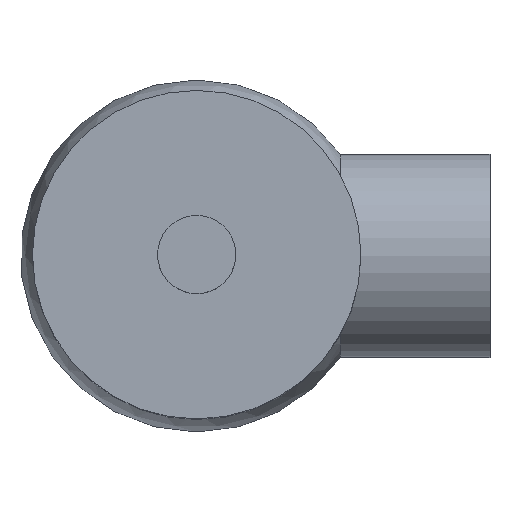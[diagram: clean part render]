
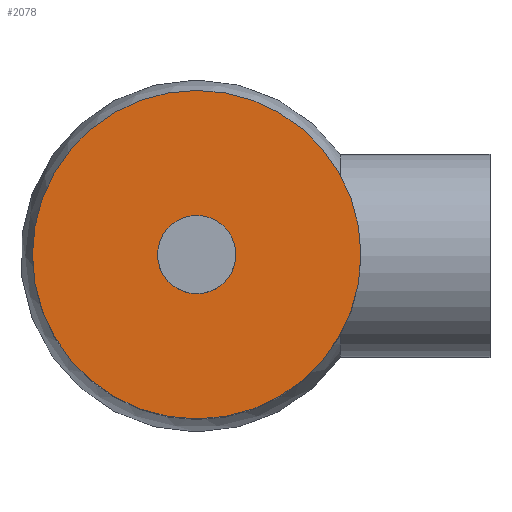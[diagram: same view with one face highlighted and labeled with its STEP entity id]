
A CAD part, top view. The second image highlights one B-rep face of the part: STEP entity #2078.
In plain terms, the highlighted planar face has unit normal (0, 0, 1).
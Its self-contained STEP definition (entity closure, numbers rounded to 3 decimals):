
#1994 = CYLINDRICAL_SURFACE('',#1995,84.);
#1995 = AXIS2_PLACEMENT_3D('',#1996,#1997,#1998);
#1996 = CARTESIAN_POINT('',(0.,0.,213.5));
#1997 = DIRECTION('',(0.,0.,1.));
#1998 = DIRECTION('',(1.,0.,0.));
#2027 = EDGE_CURVE('',#2028,#2028,#2030,.T.);
#2028 = VERTEX_POINT('',#2029);
#2029 = CARTESIAN_POINT('',(84.,0.,384.3));
#2030 = SURFACE_CURVE('',#2031,(#2036,#2043),.PCURVE_S1.);
#2031 = CIRCLE('',#2032,84.);
#2032 = AXIS2_PLACEMENT_3D('',#2033,#2034,#2035);
#2033 = CARTESIAN_POINT('',(0.,0.,384.3));
#2034 = DIRECTION('',(0.,0.,1.));
#2035 = DIRECTION('',(1.,0.,0.));
#2036 = PCURVE('',#1994,#2037);
#2037 = DEFINITIONAL_REPRESENTATION('',(#2038),#2042);
#2038 = LINE('',#2039,#2040);
#2039 = CARTESIAN_POINT('',(0.,170.8));
#2040 = VECTOR('',#2041,1.);
#2041 = DIRECTION('',(1.,0.));
#2042 = ( GEOMETRIC_REPRESENTATION_CONTEXT(2) 
PARAMETRIC_REPRESENTATION_CONTEXT() REPRESENTATION_CONTEXT('2D SPACE',''
  ) );
#2043 = PCURVE('',#2044,#2049);
#2044 = PLANE('',#2045);
#2045 = AXIS2_PLACEMENT_3D('',#2046,#2047,#2048);
#2046 = CARTESIAN_POINT('',(0.,0.,384.3));
#2047 = DIRECTION('',(0.,0.,1.));
#2048 = DIRECTION('',(1.,0.,0.));
#2049 = DEFINITIONAL_REPRESENTATION('',(#2050),#2054);
#2050 = CIRCLE('',#2051,84.);
#2051 = AXIS2_PLACEMENT_2D('',#2052,#2053);
#2052 = CARTESIAN_POINT('',(0.,0.));
#2053 = DIRECTION('',(1.,0.));
#2054 = ( GEOMETRIC_REPRESENTATION_CONTEXT(2) 
PARAMETRIC_REPRESENTATION_CONTEXT() REPRESENTATION_CONTEXT('2D SPACE',''
  ) );
#2078 = ADVANCED_FACE('',(#2079,#2082),#2044,.T.);
#2079 = FACE_BOUND('',#2080,.T.);
#2080 = EDGE_LOOP('',(#2081));
#2081 = ORIENTED_EDGE('',*,*,#2027,.T.);
#2082 = FACE_BOUND('',#2083,.T.);
#2083 = EDGE_LOOP('',(#2084));
#2084 = ORIENTED_EDGE('',*,*,#2085,.F.);
#2085 = EDGE_CURVE('',#2086,#2086,#2088,.T.);
#2086 = VERTEX_POINT('',#2087);
#2087 = CARTESIAN_POINT('',(20.,0.,384.3));
#2088 = SURFACE_CURVE('',#2089,(#2094,#2101),.PCURVE_S1.);
#2089 = CIRCLE('',#2090,20.);
#2090 = AXIS2_PLACEMENT_3D('',#2091,#2092,#2093);
#2091 = CARTESIAN_POINT('',(0.,0.,384.3));
#2092 = DIRECTION('',(0.,0.,1.));
#2093 = DIRECTION('',(1.,0.,-0.));
#2094 = PCURVE('',#2044,#2095);
#2095 = DEFINITIONAL_REPRESENTATION('',(#2096),#2100);
#2096 = CIRCLE('',#2097,20.);
#2097 = AXIS2_PLACEMENT_2D('',#2098,#2099);
#2098 = CARTESIAN_POINT('',(0.,0.));
#2099 = DIRECTION('',(1.,0.));
#2100 = ( GEOMETRIC_REPRESENTATION_CONTEXT(2) 
PARAMETRIC_REPRESENTATION_CONTEXT() REPRESENTATION_CONTEXT('2D SPACE',''
  ) );
#2101 = PCURVE('',#2102,#2107);
#2102 = CYLINDRICAL_SURFACE('',#2103,20.);
#2103 = AXIS2_PLACEMENT_3D('',#2104,#2105,#2106);
#2104 = CARTESIAN_POINT('',(0.,0.,90.));
#2105 = DIRECTION('',(0.,0.,1.));
#2106 = DIRECTION('',(1.,0.,0.));
#2107 = DEFINITIONAL_REPRESENTATION('',(#2108),#2112);
#2108 = LINE('',#2109,#2110);
#2109 = CARTESIAN_POINT('',(0.,294.3));
#2110 = VECTOR('',#2111,1.);
#2111 = DIRECTION('',(1.,0.));
#2112 = ( GEOMETRIC_REPRESENTATION_CONTEXT(2) 
PARAMETRIC_REPRESENTATION_CONTEXT() REPRESENTATION_CONTEXT('2D SPACE',''
  ) );
